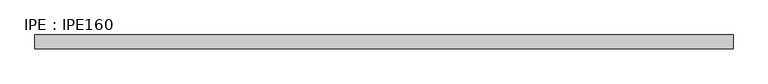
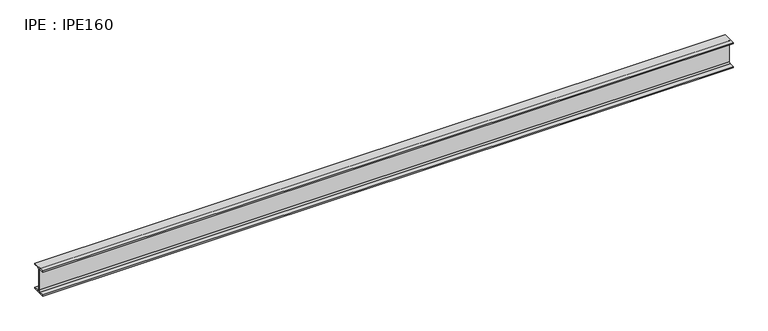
"""IFC4 building model written with IfcOpenShell, lengths in millimetres: beam geometry, IPE : IPE160."""

from ifc_helpers import new_model, si_unit, point, frame, frame_2d, origin, place, context, project, spatial, polyline, circle_curve, trimmed, segment, composite_curve, outline, extrude, source, transform, mapped, element, save


def ipe_ipe160_1e42d45d(model_context):
    return source(origin(), model_context, "Body", "SweptSolid", [
        extrude(outline(composite_curve([segment(polyline([(41.0, -72.6), (41.0, -80.0), (-41.0, -80.0), (-41.0, -72.6), (-11.5, -72.6)]), True, "CONTINUOUS"), segment(trimmed(circle_curve(frame_2d((-11.5, -63.6)), 9.0), [point((-11.5, -72.6))], [point((-2.5, -63.6))], True, "CARTESIAN"), True, "CONTINUOUS"), segment(polyline([(-2.5, -63.6), (-2.5, 63.6)]), True, "CONTINUOUS"), segment(trimmed(circle_curve(frame_2d((-11.5, 63.6)), 9.0), [point((-2.5, 63.6))], [point((-11.5, 72.6))], True, "CARTESIAN"), True, "CONTINUOUS"), segment(polyline([(-11.5, 72.6), (-41.0, 72.6), (-41.0, 80.0), (41.0, 80.0), (41.0, 72.6), (11.5, 72.6)]), True, "CONTINUOUS"), segment(trimmed(circle_curve(frame_2d((11.5, 63.6)), 9.0), [point((11.5, 72.6))], [point((2.5, 63.6))], True, "CARTESIAN"), True, "CONTINUOUS"), segment(polyline([(2.5, 63.6), (2.5, -63.6)]), True, "CONTINUOUS"), segment(trimmed(circle_curve(frame_2d((11.5, -63.6)), 9.0), [point((2.5, -63.6))], [point((11.5, -72.6))], True, "CARTESIAN"), True, "CONTINUOUS"), segment(polyline([(11.5, -72.6), (41.0, -72.6)]), True, "CONTINUOUS")], self_intersect=False)), frame((-2030.5, 0.0, 0.0), z_axis=(1.0, 0.0, 0.0), x_axis=(0.0, 1.0, 0.0)), (0.0, 0.0, 1.0), 4140.8),
    ])


if __name__ == "__main__":
    model = new_model("IFC4")
    model_context = context("Model", 3, world=origin())
    ifc_project = project(units=[si_unit("LENGTHUNIT", "METRE", prefix="MILLI")], contexts=[model_context])
    site = spatial("IfcSite", under=ifc_project)
    building = spatial("IfcBuilding", under=site)
    placement = place(None, origin())
    ipe_ipe160_shape = ipe_ipe160_1e42d45d(model_context)
    element("IfcBeam", 1, ObjectType="IPE : IPE160", at=placement, inside=building, context=model_context, shape_type="MappedRepresentation", body=[
        mapped(ipe_ipe160_shape, transform((0.0, 0.0, 0.0), x_axis=(1.0, 0.0, 0.0), y_axis=(0.0, 1.0, 0.0), z_axis=(0.0, 0.0, 1.0))),
    ])
    save(model, "model.ifc")
